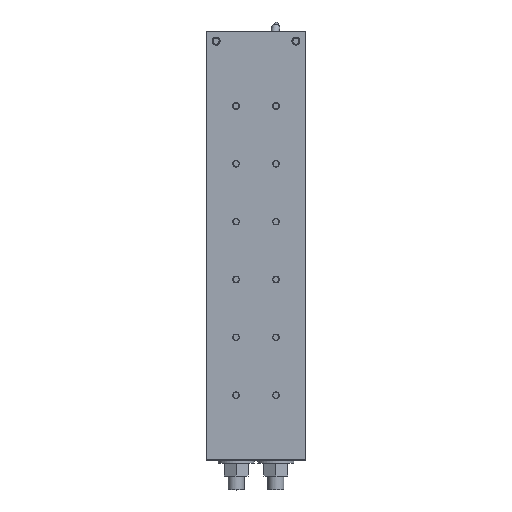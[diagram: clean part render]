
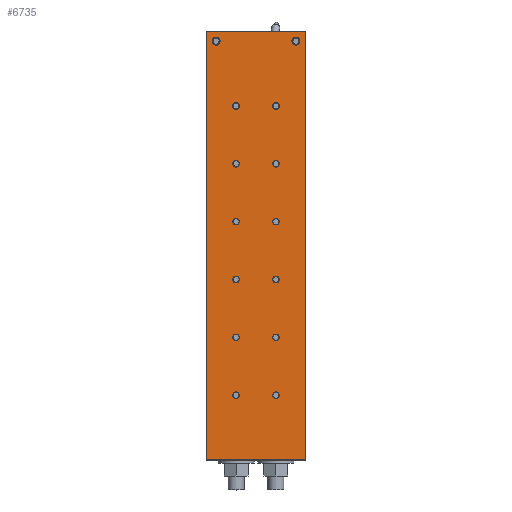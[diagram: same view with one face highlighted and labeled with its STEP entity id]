
A CAD part, top view. The second image highlights one B-rep face of the part: STEP entity #6735.
In plain terms, the highlighted planar face has unit normal (0, 0, 1) as drawn and (0, 1, 0) by its records, which use the part's own axes.
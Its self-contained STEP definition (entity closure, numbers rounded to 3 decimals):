
#941=LINE('',#11823,#1385);
#944=LINE('',#11829,#1388);
#947=LINE('',#11835,#1391);
#950=LINE('',#11840,#1394);
#1385=VECTOR('',#9959,1000.);
#1388=VECTOR('',#9964,1000.);
#1391=VECTOR('',#9969,1000.);
#1394=VECTOR('',#9974,1000.);
#2831=ORIENTED_EDGE('',*,*,#3661,.T.);
#2832=ORIENTED_EDGE('',*,*,#3663,.T.);
#2833=ORIENTED_EDGE('',*,*,#3665,.T.);
#2834=ORIENTED_EDGE('',*,*,#3667,.T.);
#2835=ORIENTED_EDGE('',*,*,#3669,.T.);
#2836=ORIENTED_EDGE('',*,*,#3671,.T.);
#2837=ORIENTED_EDGE('',*,*,#3673,.T.);
#2838=ORIENTED_EDGE('',*,*,#3675,.T.);
#2839=ORIENTED_EDGE('',*,*,#3677,.T.);
#2840=ORIENTED_EDGE('',*,*,#3679,.T.);
#2841=ORIENTED_EDGE('',*,*,#3681,.T.);
#2842=ORIENTED_EDGE('',*,*,#3683,.T.);
#2843=ORIENTED_EDGE('',*,*,#3685,.T.);
#2844=ORIENTED_EDGE('',*,*,#3687,.T.);
#2845=ORIENTED_EDGE('',*,*,#3691,.F.);
#2846=ORIENTED_EDGE('',*,*,#3700,.F.);
#2847=ORIENTED_EDGE('',*,*,#3697,.F.);
#2848=ORIENTED_EDGE('',*,*,#3694,.F.);
#3661=EDGE_CURVE('',#4283,#4283,#4575,.T.);
#3663=EDGE_CURVE('',#4285,#4285,#4577,.T.);
#3665=EDGE_CURVE('',#4287,#4287,#4579,.T.);
#3667=EDGE_CURVE('',#4289,#4289,#4581,.T.);
#3669=EDGE_CURVE('',#4291,#4291,#4583,.T.);
#3671=EDGE_CURVE('',#4293,#4293,#4585,.T.);
#3673=EDGE_CURVE('',#4295,#4295,#4587,.T.);
#3675=EDGE_CURVE('',#4297,#4297,#4589,.T.);
#3677=EDGE_CURVE('',#4299,#4299,#4591,.T.);
#3679=EDGE_CURVE('',#4301,#4301,#4593,.T.);
#3681=EDGE_CURVE('',#4303,#4303,#4595,.T.);
#3683=EDGE_CURVE('',#4305,#4305,#4597,.T.);
#3685=EDGE_CURVE('',#4307,#4307,#4599,.T.);
#3687=EDGE_CURVE('',#4309,#4309,#4601,.T.);
#3691=EDGE_CURVE('',#4313,#4314,#941,.T.);
#3694=EDGE_CURVE('',#4314,#4316,#944,.T.);
#3697=EDGE_CURVE('',#4316,#4318,#947,.T.);
#3700=EDGE_CURVE('',#4318,#4313,#950,.T.);
#4283=VERTEX_POINT('',#11749);
#4285=VERTEX_POINT('',#11754);
#4287=VERTEX_POINT('',#11759);
#4289=VERTEX_POINT('',#11764);
#4291=VERTEX_POINT('',#11769);
#4293=VERTEX_POINT('',#11774);
#4295=VERTEX_POINT('',#11779);
#4297=VERTEX_POINT('',#11784);
#4299=VERTEX_POINT('',#11789);
#4301=VERTEX_POINT('',#11794);
#4303=VERTEX_POINT('',#11799);
#4305=VERTEX_POINT('',#11804);
#4307=VERTEX_POINT('',#11809);
#4309=VERTEX_POINT('',#11814);
#4313=VERTEX_POINT('',#11822);
#4314=VERTEX_POINT('',#11824);
#4316=VERTEX_POINT('',#11830);
#4318=VERTEX_POINT('',#11836);
#4575=CIRCLE('',#7999,3.324);
#4577=CIRCLE('',#8002,3.324);
#4579=CIRCLE('',#8005,3.324);
#4581=CIRCLE('',#8008,3.324);
#4583=CIRCLE('',#8011,3.324);
#4585=CIRCLE('',#8014,3.324);
#4587=CIRCLE('',#8017,3.324);
#4589=CIRCLE('',#8020,3.324);
#4591=CIRCLE('',#8023,3.324);
#4593=CIRCLE('',#8026,3.324);
#4595=CIRCLE('',#8029,3.324);
#4597=CIRCLE('',#8032,3.324);
#4599=CIRCLE('',#8035,3.324);
#4601=CIRCLE('',#8038,3.324);
#5309=EDGE_LOOP('',(#2831));
#5310=EDGE_LOOP('',(#2832));
#5311=EDGE_LOOP('',(#2833));
#5312=EDGE_LOOP('',(#2834));
#5313=EDGE_LOOP('',(#2835));
#5314=EDGE_LOOP('',(#2836));
#5315=EDGE_LOOP('',(#2837));
#5316=EDGE_LOOP('',(#2838));
#5317=EDGE_LOOP('',(#2839));
#5318=EDGE_LOOP('',(#2840));
#5319=EDGE_LOOP('',(#2841));
#5320=EDGE_LOOP('',(#2842));
#5321=EDGE_LOOP('',(#2843));
#5322=EDGE_LOOP('',(#2844));
#5323=EDGE_LOOP('',(#2845,#2846,#2847,#2848));
#6085=FACE_BOUND('',#5309,.T.);
#6086=FACE_BOUND('',#5310,.T.);
#6087=FACE_BOUND('',#5311,.T.);
#6088=FACE_BOUND('',#5312,.T.);
#6089=FACE_BOUND('',#5313,.T.);
#6090=FACE_BOUND('',#5314,.T.);
#6091=FACE_BOUND('',#5315,.T.);
#6092=FACE_BOUND('',#5316,.T.);
#6093=FACE_BOUND('',#5317,.T.);
#6094=FACE_BOUND('',#5318,.T.);
#6095=FACE_BOUND('',#5319,.T.);
#6096=FACE_BOUND('',#5320,.T.);
#6097=FACE_BOUND('',#5321,.T.);
#6098=FACE_BOUND('',#5322,.T.);
#6099=FACE_BOUND('',#5323,.T.);
#6342=PLANE('',#8044);
#6735=ADVANCED_FACE('',(#6085,#6086,#6087,#6088,#6089,#6090,#6091,#6092,
#6093,#6094,#6095,#6096,#6097,#6098,#6099),#6342,.F.);
#7999=AXIS2_PLACEMENT_3D('',#11748,#9873,#9874);
#8002=AXIS2_PLACEMENT_3D('',#11753,#9879,#9880);
#8005=AXIS2_PLACEMENT_3D('',#11758,#9885,#9886);
#8008=AXIS2_PLACEMENT_3D('',#11763,#9891,#9892);
#8011=AXIS2_PLACEMENT_3D('',#11768,#9897,#9898);
#8014=AXIS2_PLACEMENT_3D('',#11773,#9903,#9904);
#8017=AXIS2_PLACEMENT_3D('',#11778,#9909,#9910);
#8020=AXIS2_PLACEMENT_3D('',#11783,#9915,#9916);
#8023=AXIS2_PLACEMENT_3D('',#11788,#9921,#9922);
#8026=AXIS2_PLACEMENT_3D('',#11793,#9927,#9928);
#8029=AXIS2_PLACEMENT_3D('',#11798,#9933,#9934);
#8032=AXIS2_PLACEMENT_3D('',#11803,#9939,#9940);
#8035=AXIS2_PLACEMENT_3D('',#11808,#9945,#9946);
#8038=AXIS2_PLACEMENT_3D('',#11813,#9951,#9952);
#8044=AXIS2_PLACEMENT_3D('',#11841,#9975,#9976);
#9873=DIRECTION('',(0.,-1.,0.));
#9874=DIRECTION('',(0.,0.,-1.));
#9879=DIRECTION('',(0.,-1.,0.));
#9880=DIRECTION('',(0.,0.,-1.));
#9885=DIRECTION('',(0.,-1.,0.));
#9886=DIRECTION('',(0.,0.,-1.));
#9891=DIRECTION('',(0.,-1.,0.));
#9892=DIRECTION('',(0.,0.,-1.));
#9897=DIRECTION('',(0.,-1.,0.));
#9898=DIRECTION('',(0.,0.,-1.));
#9903=DIRECTION('',(0.,-1.,0.));
#9904=DIRECTION('',(0.,0.,-1.));
#9909=DIRECTION('',(0.,-1.,0.));
#9910=DIRECTION('',(0.,0.,-1.));
#9915=DIRECTION('',(0.,-1.,0.));
#9916=DIRECTION('',(0.,0.,-1.));
#9921=DIRECTION('',(0.,-1.,0.));
#9922=DIRECTION('',(0.,0.,-1.));
#9927=DIRECTION('',(0.,-1.,0.));
#9928=DIRECTION('',(0.,0.,-1.));
#9933=DIRECTION('',(0.,-1.,0.));
#9934=DIRECTION('',(0.,0.,-1.));
#9939=DIRECTION('',(0.,-1.,0.));
#9940=DIRECTION('',(0.,0.,-1.));
#9945=DIRECTION('',(0.,-1.,0.));
#9946=DIRECTION('',(0.,0.,-1.));
#9951=DIRECTION('',(0.,-1.,0.));
#9952=DIRECTION('',(0.,0.,-1.));
#9959=DIRECTION('',(0.,0.,-1.));
#9964=DIRECTION('',(1.,0.,0.));
#9969=DIRECTION('',(0.,0.,1.));
#9974=DIRECTION('',(-1.,0.,0.));
#9975=DIRECTION('',(0.,-1.,0.));
#9976=DIRECTION('',(0.,0.,-1.));
#11748=CARTESIAN_POINT('',(90.,20.,10.));
#11749=CARTESIAN_POINT('',(90.,20.,6.677));
#11753=CARTESIAN_POINT('',(10.,20.,10.));
#11754=CARTESIAN_POINT('',(10.,20.,6.677));
#11758=CARTESIAN_POINT('',(70.,20.,75.));
#11759=CARTESIAN_POINT('',(70.,20.,71.677));
#11763=CARTESIAN_POINT('',(70.,20.,133.));
#11764=CARTESIAN_POINT('',(70.,20.,129.677));
#11768=CARTESIAN_POINT('',(70.,20.,191.));
#11769=CARTESIAN_POINT('',(70.,20.,187.677));
#11773=CARTESIAN_POINT('',(70.,20.,249.));
#11774=CARTESIAN_POINT('',(70.,20.,245.677));
#11778=CARTESIAN_POINT('',(70.,20.,307.));
#11779=CARTESIAN_POINT('',(70.,20.,303.677));
#11783=CARTESIAN_POINT('',(70.,20.,365.));
#11784=CARTESIAN_POINT('',(70.,20.,361.677));
#11788=CARTESIAN_POINT('',(30.,20.,365.));
#11789=CARTESIAN_POINT('',(30.,20.,361.677));
#11793=CARTESIAN_POINT('',(30.,20.,307.));
#11794=CARTESIAN_POINT('',(30.,20.,303.677));
#11798=CARTESIAN_POINT('',(30.,20.,249.));
#11799=CARTESIAN_POINT('',(30.,20.,245.677));
#11803=CARTESIAN_POINT('',(30.,20.,191.));
#11804=CARTESIAN_POINT('',(30.,20.,187.677));
#11808=CARTESIAN_POINT('',(30.,20.,133.));
#11809=CARTESIAN_POINT('',(30.,20.,129.677));
#11813=CARTESIAN_POINT('',(30.,20.,75.));
#11814=CARTESIAN_POINT('',(30.,20.,71.677));
#11822=CARTESIAN_POINT('',(0.,20.,430.));
#11823=CARTESIAN_POINT('',(0.,20.,430.));
#11824=CARTESIAN_POINT('',(0.,20.,0.));
#11829=CARTESIAN_POINT('',(0.,20.,0.));
#11830=CARTESIAN_POINT('',(100.,20.,0.));
#11835=CARTESIAN_POINT('',(100.,20.,0.));
#11836=CARTESIAN_POINT('',(100.,20.,430.));
#11840=CARTESIAN_POINT('',(100.,20.,430.));
#11841=CARTESIAN_POINT('',(0.,20.,0.));
